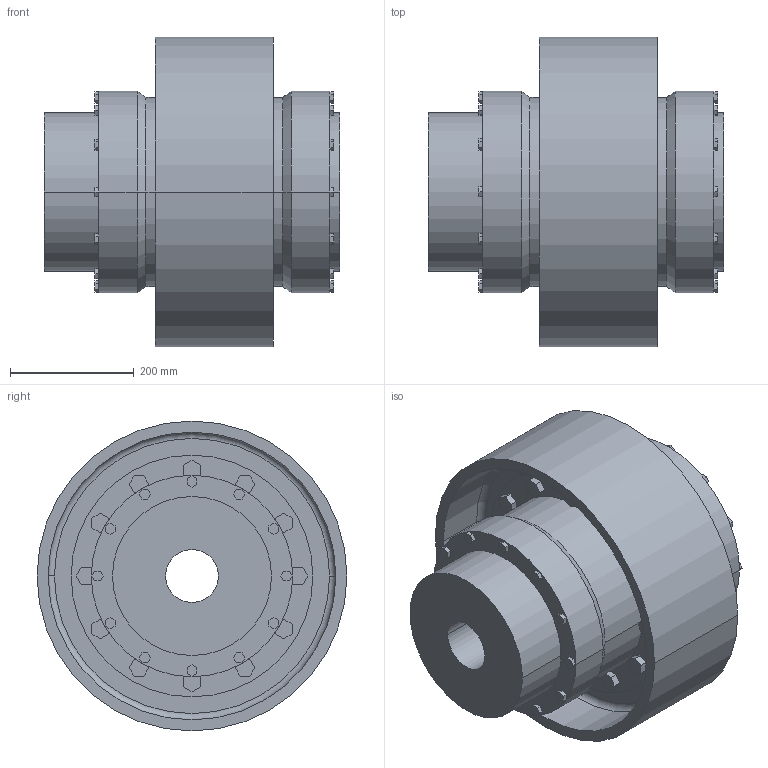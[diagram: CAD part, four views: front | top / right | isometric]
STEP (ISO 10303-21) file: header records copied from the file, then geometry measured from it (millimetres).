
FILE_DESCRIPTION((''),'2;1');
FILE_NAME('A19735000-0_ASM','2019-05-23T',('AB_Roschiwal'),('RENK AG'),'PRO/ENGINEER BY PARAMETRIC TECHNOLOGY CORPORATION, 2015440','PRO/ENGINEER BY PARAMETRIC TECHNOLOGY CORPORATION, 2015440','');
FILE_SCHEMA(('CONFIG_CONTROL_DESIGN'));
Length unit declared in the file: millimetre
Products named in the file (4): SBKD160_GEHAEUSE; SBKD160_NABE; SBKD160_BREMSSCHEIBE; A19735000-0_ASM
Assembly tree (4 placements, depth 2):
  A19735000-0_ASM
    SBKD160_GEHAEUSE
    SBKD160_NABE  x2
    SBKD160_BREMSSCHEIBE
Bounding box: 477 x 500 x 500 mm (x, y, z)
Volume: 33483572.7 mm3; surface area: 2443862.5 mm2
Topology: 4 solids, 4 shells, 474 faces, 1164 edges, 772 vertices
Faces by surface type: plane 370, cylinder 96, cone 4, torus 4
Entity records: 13708 total; most frequent: CARTESIAN_POINT 2366, ORIENTED_EDGE 2280, DIRECTION 2264, EDGE_CURVE 1140, VECTOR 956, LINE 956, VERTEX_POINT 756, AXIS2_PLACEMENT_3D 654
